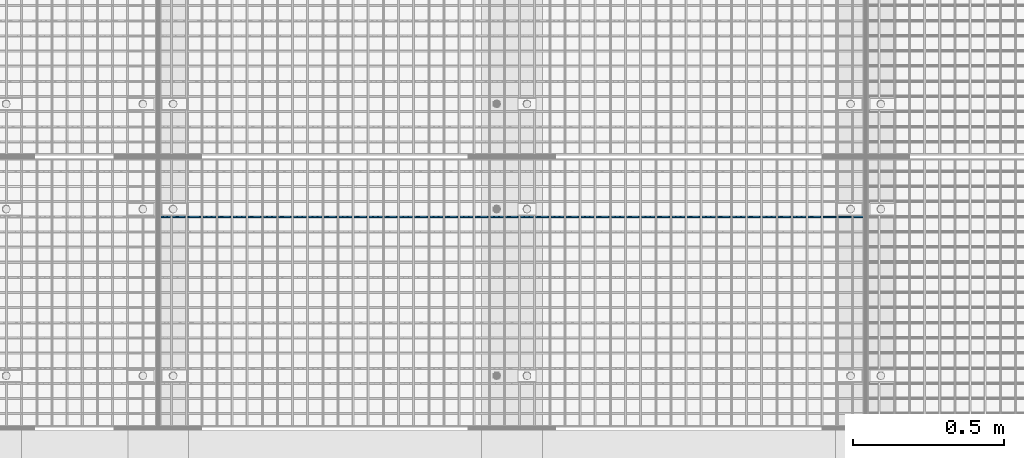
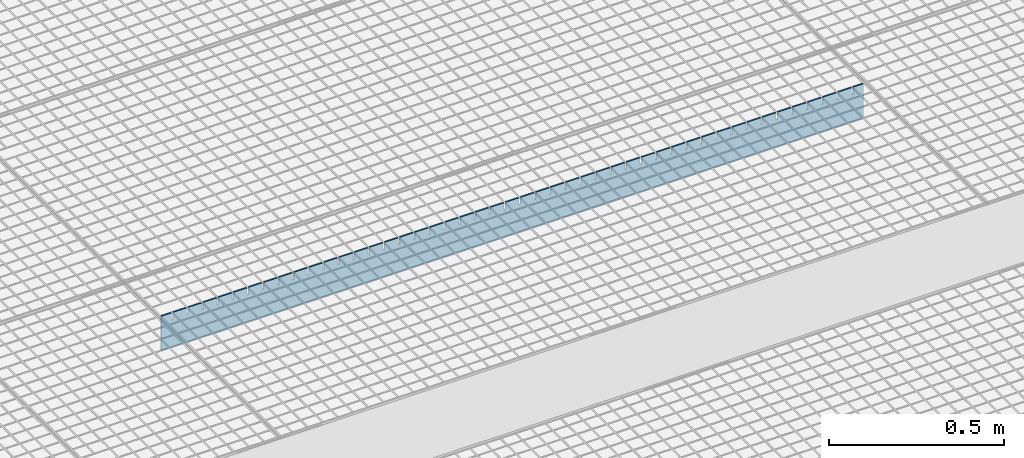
# One storey, part 349 of 1530: 1 beam.
"""IFC2X3 building model written with IfcOpenShell, lengths in millimetres."""

from ifc_helpers import new_model, si_unit, frame, origin_with_axes, place, context, subcontext, project, spatial, faceted_brep, material, type_object, element, save


model = new_model("IFC2X3")

# Units and contexts
model_context = context("Model", 3, precision=1e-05, world=origin_with_axes())
body_context = subcontext(model_context, "Body", "Model", "MODEL_VIEW")
ifc_project = project(units=[si_unit("LENGTHUNIT", "METRE", prefix="MILLI"), si_unit("AREAUNIT", "SQUARE_METRE"), si_unit("VOLUMEUNIT", "CUBIC_METRE"), si_unit("MASSUNIT", "GRAM", prefix="KILO"), si_unit("TIMEUNIT", "SECOND"), si_unit("PLANEANGLEUNIT", "RADIAN"), si_unit("SOLIDANGLEUNIT", "STERADIAN"), si_unit("THERMODYNAMICTEMPERATUREUNIT", "DEGREE_CELSIUS"), si_unit("LUMINOUSINTENSITYUNIT", "LUMEN")], contexts=[model_context])

# Site, building, storey
site_placement = place(None, origin_with_axes())
site = spatial("IfcSite", under=ifc_project, at=site_placement, Name="Brattvåg", CompositionType="ELEMENT")
building_placement = place(site_placement, origin_with_axes())
building = spatial("IfcBuilding", under=site, at=building_placement, Name="Undefined", CompositionType="ELEMENT")
storey_placement = place(building_placement, origin_with_axes())
storey = spatial("IfcBuildingStorey", under=building, at=storey_placement, Name="Undefined", CompositionType="ELEMENT", Elevation=0.0)

# Beam
ifc_material = material(Name="STEEL/S355J2")
beam_type = type_object("IfcBeamType", Name="120*5", PredefinedType="NOTDEFINED")
beam_placement = place(storey_placement, frame((5234.01317977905, 3852.99449157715, -59.9998626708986), z_axis=(0.0, 0.0, 1.0), x_axis=(-1.0, 1.99999855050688e-09, 0.0)))
element("IfcBeam", 1, at=beam_placement, inside=storey, type_object=beam_type, material=ifc_material, Name="GRATING", context=body_context, shape_type="Brep", body=[
    faceted_brep([(83.5790367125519, -2.50000000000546, 60.0000722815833), (83.5790367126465, -2.50000000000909, 35.0001373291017), (83.5790367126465, 2.50022888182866, 35.0001373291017), (83.5790367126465, 2.5, 60.0), (88.5790367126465, -2.50000000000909, 35.0001373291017), (88.5790367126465, 2.50022888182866, 35.0001373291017), (88.5790367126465, -2.50000000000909, 60.0001373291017), (88.5790367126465, 2.5, 60.0), (38.6284370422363, -2.50000000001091, 60.0001373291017), (38.6284370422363, 2.5, 60.0), (38.6284370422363, 2.49999999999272, 35.0001373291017), (38.6284370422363, -2.50000000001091, 35.0001373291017), (33.6284370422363, 2.49999999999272, 35.0001373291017), (33.6284370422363, -2.50000000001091, 35.0001373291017), (33.6284370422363, -2.5, 60.0), (33.6284370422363, 2.5, 60.0), (0.0, 2.5, 60.0), (0.0, -2.5, 60.0), (0.0, -2.5, -60.0), (0.0, 2.5, -60.0), (2319.99865722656, 2.5, -60.0), (2319.99865722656, -2.5, -60.0), (2319.99865722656, -2.5, 60.0), (2319.99865722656, 2.5, 60.0), (2286.37871932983, 2.5, 60.0), (2286.37871932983, -2.50000000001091, 60.0001373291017), (2286.37871932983, 2.49999999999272, 35.0001373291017), (2286.37871932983, -2.50000000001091, 35.0001373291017), (2281.37871932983, 2.49999999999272, 35.0001373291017), (2281.37871932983, -2.50000000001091, 35.0001373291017), (2281.37871932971, -2.50000000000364, 60.0000634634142), (2281.37871932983, 2.5, 60.0), (2236.42859649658, 2.5, 60.0), (2236.42859649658, -2.50000000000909, 60.0001373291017), (2236.42859649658, 2.50022888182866, 35.0001373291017), (2236.42859649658, -2.50000000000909, 35.0001373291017), (2231.42859649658, 2.50022888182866, 35.0001373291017), (2231.42859649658, -2.50000000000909, 35.0001373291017), (2231.42859649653, -2.50000000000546, 60.0000910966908), (2231.42859649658, 2.5, 60.0), (2186.47847366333, 2.5, 60.0), (2186.47847366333, -2.50000000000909, 60.0001373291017), (2186.47847366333, 2.50022888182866, 35.0001373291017), (2186.47847366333, -2.50000000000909, 35.0001373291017), (2181.47847366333, 2.50022888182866, 35.0001373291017), (2181.47847366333, -2.50000000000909, 35.0001373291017), (2181.47847366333, -2.5, 60.0), (2181.47847366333, 2.5, 60.0), (2136.52882766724, 2.5, 60.0), (2136.52882766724, -2.50000000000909, 60.0001373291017), (2136.52882766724, 2.50022888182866, 35.0001373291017), (2136.52882766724, -2.50000000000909, 35.0001373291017), (2131.52882766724, 2.50022888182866, 35.0001373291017), (2131.52882766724, -2.50000000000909, 35.0001373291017), (2131.52882766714, -2.50000000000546, 60.0000722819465), (2131.52882766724, 2.5, 60.0), (2086.57870483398, 2.5, 60.0), (2086.57870483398, -2.50000000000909, 60.0001373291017), (2086.57870483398, 2.50022888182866, 35.0001373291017), (2086.57870483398, -2.50000000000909, 35.0001373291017), (2081.57870483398, 2.50022888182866, 35.0001373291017), (2081.57870483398, -2.50000000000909, 35.0001373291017), (2081.57870483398, -2.5, 60.0), (2081.57870483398, 2.5, 60.0), (2036.62858200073, 2.5, 60.0), (2036.62858200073, -2.50000000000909, 60.0001373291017), (2036.62858200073, 2.50022888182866, 35.0001373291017), (2036.62858200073, -2.50000000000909, 35.0001373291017), (2031.62858200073, 2.50022888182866, 35.0001373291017), (2031.62858200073, -2.50000000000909, 35.0001373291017), (2031.62858200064, -2.50000000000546, 60.0000722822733), (2031.62858200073, 2.5, 60.0), (1986.67845916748, 2.5, 60.0), (1986.67845916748, -2.50000000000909, 60.0001373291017), (1986.67845916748, 2.50022888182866, 35.0001373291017), (1986.67845916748, -2.50000000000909, 35.0001373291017), (1981.67845916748, 2.50022888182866, 35.0001373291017), (1981.67845916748, -2.50000000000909, 35.0001373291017), (1981.67845916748, -2.5, 60.0), (1981.67845916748, 2.5, 60.0), (1936.72881317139, 2.5, 60.0), (1936.72881317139, -2.50000000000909, 60.0001373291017), (1936.72881317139, 2.50022888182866, 35.0001373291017), (1936.72881317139, -2.50000000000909, 35.0001373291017), (1931.72881317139, 2.50022888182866, 35.0001373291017), (1931.72881317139, -2.50000000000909, 35.0001373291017), (1931.72881317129, -2.50000000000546, 60.0000722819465), (1931.72881317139, 2.5, 60.0), (1886.77869033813, 2.5, 60.0), (1886.77869033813, -2.50000000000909, 60.0001373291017), (1886.77869033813, 2.50022888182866, 35.0001373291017), (1886.77869033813, -2.50000000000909, 35.0001373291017), (1881.77869033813, 2.50022888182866, 35.0001373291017), (1881.77869033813, -2.50000000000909, 35.0001373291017), (1881.77869033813, -2.5, 60.0), (1881.77869033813, 2.5, 60.0), (1836.82856750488, 2.5, 60.0), (1836.82856750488, -2.50000000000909, 60.0001373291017), (1836.82856750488, 2.50022888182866, 35.0001373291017), (1836.82856750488, -2.50000000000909, 35.0001373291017), (1831.82856750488, 2.50022888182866, 35.0001373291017), (1831.82856750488, -2.50000000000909, 35.0001373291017), (1831.82856750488, -2.5, 60.0), (1831.82856750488, 2.5, 60.0), (1786.87892150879, 2.5, 60.0), (1786.87892150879, -2.50000000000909, 60.0001373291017), (1786.87892150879, 2.50022888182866, 35.0001373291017), (1786.87892150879, -2.50000000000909, 35.0001373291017), (1781.87892150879, 2.50022888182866, 35.0001373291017), (1781.87892150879, -2.50000000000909, 35.0001373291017), (1781.87892150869, -2.50000000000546, 60.0000722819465), (1781.87892150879, 2.5, 60.0), (1736.92879867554, 2.5, 60.0), (1736.92879867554, -2.50000000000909, 60.0001373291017), (1736.92879867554, 2.50022888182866, 35.0001373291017), (1736.92879867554, -2.50000000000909, 35.0001373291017), (1731.92879867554, 2.50022888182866, 35.0001373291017), (1731.92879867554, -2.50000000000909, 35.0001373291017), (1731.92879867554, -2.5, 60.0), (1731.92879867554, 2.5, 60.0), (1686.97867584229, 2.5, 60.0), (1686.97867584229, -2.50000000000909, 60.0001373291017), (1686.97867584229, 2.50022888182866, 35.0001373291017), (1686.97867584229, -2.50000000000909, 35.0001373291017), (1681.97867584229, 2.50022888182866, 35.0001373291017), (1681.97867584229, -2.50000000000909, 35.0001373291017), (1681.97867584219, -2.50000000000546, 60.0000722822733), (1681.97867584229, 2.5, 60.0), (1637.02855300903, 2.5, 60.0), (1637.02855300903, -2.50000000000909, 60.0001373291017), (1637.02855300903, 2.50022888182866, 35.0001373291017), (1637.02855300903, -2.50000000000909, 35.0001373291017), (1632.02855300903, 2.50022888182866, 35.0001373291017), (1632.02855300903, -2.50000000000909, 35.0001373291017), (1632.02855300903, -2.5, 60.0), (1632.02855300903, 2.5, 60.0), (1587.07890701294, 2.5, 60.0), (1587.07890701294, -2.50000000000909, 60.0001373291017), (1587.07890701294, 2.50022888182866, 35.0001373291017), (1587.07890701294, -2.50000000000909, 35.0001373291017), (1582.07890701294, 2.50022888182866, 35.0001373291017), (1582.07890701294, -2.50000000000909, 35.0001373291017), (1582.07890701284, -2.50000000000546, 60.0000722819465), (1582.07890701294, 2.5, 60.0), (1537.12878417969, 2.5, 60.0), (1537.12878417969, -2.50000000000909, 60.0001373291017), (1537.12878417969, 2.50022888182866, 35.0001373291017), (1537.12878417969, -2.50000000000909, 35.0001373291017), (1532.12878417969, 2.50022888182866, 35.0001373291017), (1532.12878417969, -2.50000000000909, 35.0001373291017), (1532.12878417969, -2.5, 60.0), (1532.12878417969, 2.5, 60.0), (1487.17866134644, 2.5, 60.0), (1487.17866134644, -2.50000000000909, 60.0001373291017), (1487.17866134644, 2.50022888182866, 35.0001373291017), (1487.17866134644, -2.50000000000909, 35.0001373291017), (1482.17866134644, 2.50022888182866, 35.0001373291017), (1482.17866134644, -2.50000000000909, 35.0001373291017), (1482.17866134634, -2.50000000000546, 60.0000722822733), (1482.17866134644, 2.5, 60.0), (1437.22853851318, 2.5, 60.0), (1437.22853851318, -2.50000000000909, 60.0001373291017), (1437.22853851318, 2.50022888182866, 35.0001373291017), (1437.22853851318, -2.50000000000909, 35.0001373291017), (1432.22853851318, 2.50022888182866, 35.0001373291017), (1432.22853851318, -2.50000000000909, 35.0001373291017), (1432.22853851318, -2.5, 60.0), (1432.22853851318, 2.5, 60.0), (1387.27889251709, 2.5, 60.0), (1387.27889251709, -2.50000000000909, 60.0001373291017), (1387.27889251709, 2.50022888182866, 35.0001373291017), (1387.27889251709, -2.50000000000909, 35.0001373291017), (1382.27889251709, 2.50022888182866, 35.0001373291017), (1382.27889251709, -2.50000000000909, 35.0001373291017), (1382.278892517, -2.50000000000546, 60.0000722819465), (1382.27889251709, 2.5, 60.0), (1337.32876968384, 2.5, 60.0), (1337.32876968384, -2.50000000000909, 60.0001373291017), (1337.32876968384, 2.50022888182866, 35.0001373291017), (1337.32876968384, -2.50000000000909, 35.0001373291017), (1332.32876968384, 2.50022888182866, 35.0001373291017), (1332.32876968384, -2.50000000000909, 35.0001373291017), (1332.32876968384, -2.5, 60.0), (1332.32876968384, 2.5, 60.0), (1287.37864685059, 2.5, 60.0), (1287.37864685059, -2.50000000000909, 60.0001373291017), (1287.37864685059, 2.50022888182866, 35.0001373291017), (1287.37864685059, -2.50000000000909, 35.0001373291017), (1282.37864685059, 2.50022888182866, 35.0001373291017), (1282.37864685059, -2.50000000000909, 35.0001373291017), (1282.37864685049, -2.50000000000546, 60.0000722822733), (1282.37864685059, 2.5, 60.0), (1237.42852401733, 2.5, 60.0), (1237.42852401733, -2.50000000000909, 60.0001373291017), (1237.42852401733, 2.50022888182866, 35.0001373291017), (1237.42852401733, -2.50000000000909, 35.0001373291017), (1232.42852401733, 2.50022888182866, 35.0001373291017), (1232.42852401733, -2.50000000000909, 35.0001373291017), (1232.42852401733, -2.5, 60.0), (1232.42852401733, 2.5, 60.0), (1187.47887802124, 2.5, 60.0), (1187.47887802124, -2.50000000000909, 60.0001373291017), (1187.47887802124, 2.50022888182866, 35.0001373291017), (1187.47887802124, -2.50000000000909, 35.0001373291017), (1182.47887802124, 2.50022888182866, 35.0001373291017), (1182.47887802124, -2.50000000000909, 35.0001373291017), (1182.47887802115, -2.50000000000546, 60.0000722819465), (1182.47887802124, 2.5, 60.0), (1137.52875518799, 2.5, 60.0), (1137.52875518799, -2.50000000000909, 60.0001373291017), (1137.52875518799, 2.50022888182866, 35.0001373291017), (1137.52875518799, -2.50000000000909, 35.0001373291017), (1132.52875518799, 2.50022888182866, 35.0001373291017), (1132.52875518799, -2.50000000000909, 35.0001373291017), (1132.52875518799, -2.5, 60.0), (1132.52875518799, 2.5, 60.0), (1087.57863235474, 2.5, 60.0), (1087.57863235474, -2.50000000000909, 60.0001373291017), (1087.57863235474, 2.50022888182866, 35.0001373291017), (1087.57863235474, -2.50000000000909, 35.0001373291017), (1082.57863235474, 2.50022888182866, 35.0001373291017), (1082.57863235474, -2.50000000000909, 35.0001373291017), (1082.57863235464, -2.50000000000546, 60.0000722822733), (1082.57863235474, 2.5, 60.0), (1037.62850952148, 2.5, 60.0), (1037.62850952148, -2.50000000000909, 60.0001373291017), (1037.62850952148, 2.50022888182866, 35.0001373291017), (1037.62850952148, -2.50000000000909, 35.0001373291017), (1032.62850952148, 2.50022888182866, 35.0001373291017), (1032.62850952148, -2.50000000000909, 35.0001373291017), (1032.62850952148, -2.5, 60.0), (1032.62850952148, 2.5, 60.0), (987.678863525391, 2.5, 60.0), (987.678863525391, -2.50000000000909, 60.0001373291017), (987.678863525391, 2.50022888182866, 35.0001373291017), (987.678863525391, -2.50000000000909, 35.0001373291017), (982.678863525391, 2.50022888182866, 35.0001373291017), (982.678863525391, -2.50000000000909, 35.0001373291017), (982.678863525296, -2.50000000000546, 60.0000722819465), (982.678863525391, 2.5, 60.0), (937.728740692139, 2.5, 60.0), (937.728740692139, -2.50000000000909, 60.0001373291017), (937.728740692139, 2.50022888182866, 35.0001373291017), (937.728740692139, -2.50000000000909, 35.0001373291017), (932.728740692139, 2.50022888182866, 35.0001373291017), (932.728740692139, -2.50000000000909, 35.0001373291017), (932.728740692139, -2.5, 60.0), (932.728740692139, 2.5, 60.0), (887.778617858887, 2.5, 60.0), (887.778617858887, -2.50000000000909, 60.0001373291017), (887.778617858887, 2.50022888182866, 35.0001373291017), (887.778617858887, -2.50000000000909, 35.0001373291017), (882.778617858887, 2.50022888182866, 35.0001373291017), (882.778617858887, -2.50000000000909, 35.0001373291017), (882.778617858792, -2.50000000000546, 60.0000722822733), (882.778617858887, 2.5, 60.0), (837.828495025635, 2.5, 60.0), (837.828495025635, -2.50000000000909, 60.0001373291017), (837.828495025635, 2.50022888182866, 35.0001373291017), (837.828495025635, -2.50000000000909, 35.0001373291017), (832.828495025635, 2.50022888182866, 35.0001373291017), (832.828495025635, -2.50000000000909, 35.0001373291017), (832.828495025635, -2.5, 60.0), (832.828495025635, 2.5, 60.0), (787.878849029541, 2.5, 60.0), (787.878849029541, -2.50000000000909, 60.0001373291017), (787.878849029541, 2.50022888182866, 35.0001373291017), (787.878849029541, -2.50000000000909, 35.0001373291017), (782.878849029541, 2.50022888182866, 35.0001373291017), (782.878849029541, -2.50000000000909, 35.0001373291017), (782.878849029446, -2.50000000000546, 60.0000722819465), (782.878849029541, 2.5, 60.0), (737.928726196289, 2.5, 60.0), (737.928726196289, -2.50000000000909, 60.0001373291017), (737.928726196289, 2.50022888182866, 35.0001373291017), (737.928726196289, -2.50000000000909, 35.0001373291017), (732.928726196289, 2.50022888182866, 35.0001373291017), (732.928726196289, -2.50000000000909, 35.0001373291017), (732.928726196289, -2.5, 60.0), (732.928726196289, 2.5, 60.0), (687.978603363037, 2.5, 60.0), (687.978603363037, -2.50000000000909, 60.0001373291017), (687.978603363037, 2.50022888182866, 35.0001373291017), (687.978603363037, -2.50000000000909, 35.0001373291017), (682.978603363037, 2.50022888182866, 35.0001373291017), (682.978603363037, -2.50000000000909, 35.0001373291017), (682.978603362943, -2.50000000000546, 60.0000722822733), (682.978603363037, 2.5, 60.0), (638.028480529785, 2.5, 60.0), (638.028480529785, -2.50000000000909, 60.0001373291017), (638.028480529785, 2.50022888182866, 35.0001373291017), (638.028480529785, -2.50000000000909, 35.0001373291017), (633.028480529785, 2.50022888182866, 35.0001373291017), (633.028480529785, -2.50000000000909, 35.0001373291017), (633.028480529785, -2.5, 60.0), (633.028480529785, 2.5, 60.0), (588.078834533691, 2.5, 60.0), (588.078834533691, -2.50000000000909, 60.0001373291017), (588.078834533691, 2.50022888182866, 35.0001373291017), (588.078834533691, -2.50000000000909, 35.0001373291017), (583.078834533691, 2.50022888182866, 35.0001373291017), (583.078834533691, -2.50000000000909, 35.0001373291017), (583.078834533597, -2.50000000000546, 60.0000722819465), (583.078834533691, 2.5, 60.0), (538.128711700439, 2.5, 60.0), (538.128711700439, -2.50000000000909, 60.0001373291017), (538.128711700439, 2.50022888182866, 35.0001373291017), (538.128711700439, -2.50000000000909, 35.0001373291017), (533.128711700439, 2.50022888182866, 35.0001373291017), (533.128711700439, -2.50000000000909, 35.0001373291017), (533.128711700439, -2.5, 60.0), (533.128711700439, 2.5, 60.0), (488.178588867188, 2.5, 60.0), (488.178588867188, -2.50000000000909, 60.0001373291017), (488.178588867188, 2.50022888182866, 35.0001373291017), (488.178588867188, -2.50000000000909, 35.0001373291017), (483.178588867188, 2.50022888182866, 35.0001373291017), (483.178588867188, -2.50000000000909, 35.0001373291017), (483.178588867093, -2.50000000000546, 60.0000722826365), (483.178588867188, 2.5, 60.0), (438.228942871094, 2.5, 60.0), (438.228942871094, -2.50000000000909, 60.0001373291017), (438.228942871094, 2.50022888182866, 35.0001373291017), (438.228942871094, -2.50000000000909, 35.0001373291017), (433.228942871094, 2.50022888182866, 35.0001373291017), (433.228942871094, -2.50000000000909, 35.0001373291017), (433.228942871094, -2.5, 60.0), (433.228942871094, 2.5, 60.0), (388.278820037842, 2.5, 60.0), (388.278820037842, -2.50000000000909, 60.0001373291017), (388.278820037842, 2.50022888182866, 35.0001373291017), (388.278820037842, -2.50000000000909, 35.0001373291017), (383.278820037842, 2.50022888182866, 35.0001373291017), (383.278820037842, -2.50000000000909, 35.0001373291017), (383.278820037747, -2.50000000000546, 60.0000722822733), (383.278820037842, 2.5, 60.0), (338.32869720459, 2.5, 60.0), (338.32869720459, -2.50000000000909, 60.0001373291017), (338.32869720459, 2.50022888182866, 35.0001373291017), (338.32869720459, -2.50000000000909, 35.0001373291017), (333.32869720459, 2.50022888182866, 35.0001373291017), (333.32869720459, -2.50000000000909, 35.0001373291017), (333.32869720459, -2.5, 60.0), (333.32869720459, 2.5, 60.0), (288.378574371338, 2.5, 60.0), (288.378574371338, -2.50000000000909, 60.0001373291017), (288.378574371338, 2.50022888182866, 35.0001373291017), (288.378574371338, -2.50000000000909, 35.0001373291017), (283.378574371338, 2.50022888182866, 35.0001373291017), (283.378574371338, -2.50000000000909, 35.0001373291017), (283.378574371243, -2.50000000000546, 60.0000722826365), (283.378574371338, 2.5, 60.0), (238.428928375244, 2.5, 60.0), (238.428928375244, -2.50000000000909, 60.0001373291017), (238.428928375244, 2.50022888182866, 35.0001373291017), (238.428928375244, -2.50000000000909, 35.0001373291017), (233.428928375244, 2.50022888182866, 35.0001373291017), (233.428928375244, -2.50000000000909, 35.0001373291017), (233.428928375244, -2.5, 60.0), (233.428928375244, 2.5, 60.0), (188.478328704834, 2.5, 60.0), (188.478328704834, -2.50000000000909, 60.0001373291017), (188.478328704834, 2.50022888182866, 35.0001373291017), (188.478328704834, -2.50000000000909, 35.0001373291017), (183.478328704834, 2.50022888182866, 35.0001373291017), (183.478328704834, -2.50000000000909, 35.0001373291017), (183.478328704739, -2.50000000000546, 60.0000722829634), (183.478328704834, 2.5, 60.0), (138.52868270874, 2.5, 60.0), (138.52868270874, -2.50000000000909, 60.0001373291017), (138.52868270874, 2.50022888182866, 35.0001373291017), (138.52868270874, -2.50000000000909, 35.0001373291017), (133.52868270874, 2.50022888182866, 35.0001373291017), (133.52868270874, -2.50000000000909, 35.0001373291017), (133.52868270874, -2.5, 60.0), (133.52868270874, 2.5, 60.0)], [[[0, 1, 2, 3]], [[4, 5, 2, 1]], [[6, 7, 5, 4]], [[8, 9, 10, 11]], [[11, 10, 12, 13]], [[14, 13, 12, 15]], [[16, 17, 14, 15]], [[18, 17, 16, 19]], [[18, 19, 20, 21]], [[22, 21, 20, 23]], [[22, 23, 24, 25]], [[25, 24, 26, 27]], [[27, 26, 28, 29]], [[30, 29, 28, 31]], [[32, 33, 30, 31]], [[33, 32, 34, 35]], [[35, 34, 36, 37]], [[38, 37, 36, 39]], [[40, 41, 38, 39]], [[41, 40, 42, 43]], [[43, 42, 44, 45]], [[46, 45, 44, 47]], [[46, 47, 48, 49]], [[49, 48, 50, 51]], [[51, 50, 52, 53]], [[54, 53, 52, 55]], [[56, 57, 54, 55]], [[57, 56, 58, 59]], [[59, 58, 60, 61]], [[62, 61, 60, 63]], [[62, 63, 64, 65]], [[65, 64, 66, 67]], [[67, 66, 68, 69]], [[70, 69, 68, 71]], [[72, 73, 70, 71]], [[73, 72, 74, 75]], [[75, 74, 76, 77]], [[78, 77, 76, 79]], [[78, 79, 80, 81]], [[81, 80, 82, 83]], [[83, 82, 84, 85]], [[86, 85, 84, 87]], [[88, 89, 86, 87]], [[89, 88, 90, 91]], [[91, 90, 92, 93]], [[94, 93, 92, 95]], [[94, 95, 96, 97]], [[97, 96, 98, 99]], [[99, 98, 100, 101]], [[102, 101, 100, 103]], [[102, 103, 104, 105]], [[105, 104, 106, 107]], [[107, 106, 108, 109]], [[110, 109, 108, 111]], [[112, 113, 110, 111]], [[113, 112, 114, 115]], [[115, 114, 116, 117]], [[118, 117, 116, 119]], [[118, 119, 120, 121]], [[121, 120, 122, 123]], [[123, 122, 124, 125]], [[126, 125, 124, 127]], [[128, 129, 126, 127]], [[129, 128, 130, 131]], [[131, 130, 132, 133]], [[134, 133, 132, 135]], [[134, 135, 136, 137]], [[137, 136, 138, 139]], [[139, 138, 140, 141]], [[142, 141, 140, 143]], [[144, 145, 142, 143]], [[145, 144, 146, 147]], [[147, 146, 148, 149]], [[150, 149, 148, 151]], [[150, 151, 152, 153]], [[153, 152, 154, 155]], [[155, 154, 156, 157]], [[158, 157, 156, 159]], [[160, 161, 158, 159]], [[161, 160, 162, 163]], [[163, 162, 164, 165]], [[166, 165, 164, 167]], [[166, 167, 168, 169]], [[169, 168, 170, 171]], [[171, 170, 172, 173]], [[174, 173, 172, 175]], [[176, 177, 174, 175]], [[177, 176, 178, 179]], [[179, 178, 180, 181]], [[182, 181, 180, 183]], [[182, 183, 184, 185]], [[185, 184, 186, 187]], [[187, 186, 188, 189]], [[190, 189, 188, 191]], [[192, 193, 190, 191]], [[193, 192, 194, 195]], [[195, 194, 196, 197]], [[198, 197, 196, 199]], [[198, 199, 200, 201]], [[201, 200, 202, 203]], [[203, 202, 204, 205]], [[206, 205, 204, 207]], [[208, 209, 206, 207]], [[209, 208, 210, 211]], [[211, 210, 212, 213]], [[214, 213, 212, 215]], [[214, 215, 216, 217]], [[217, 216, 218, 219]], [[219, 218, 220, 221]], [[222, 221, 220, 223]], [[224, 225, 222, 223]], [[225, 224, 226, 227]], [[227, 226, 228, 229]], [[230, 229, 228, 231]], [[230, 231, 232, 233]], [[233, 232, 234, 235]], [[235, 234, 236, 237]], [[238, 237, 236, 239]], [[240, 241, 238, 239]], [[241, 240, 242, 243]], [[243, 242, 244, 245]], [[246, 245, 244, 247]], [[246, 247, 248, 249]], [[249, 248, 250, 251]], [[251, 250, 252, 253]], [[254, 253, 252, 255]], [[256, 257, 254, 255]], [[257, 256, 258, 259]], [[259, 258, 260, 261]], [[262, 261, 260, 263]], [[262, 263, 264, 265]], [[265, 264, 266, 267]], [[267, 266, 268, 269]], [[270, 269, 268, 271]], [[272, 273, 270, 271]], [[273, 272, 274, 275]], [[275, 274, 276, 277]], [[278, 277, 276, 279]], [[278, 279, 280, 281]], [[281, 280, 282, 283]], [[283, 282, 284, 285]], [[286, 285, 284, 287]], [[288, 289, 286, 287]], [[289, 288, 290, 291]], [[291, 290, 292, 293]], [[294, 293, 292, 295]], [[294, 295, 296, 297]], [[297, 296, 298, 299]], [[299, 298, 300, 301]], [[302, 301, 300, 303]], [[304, 305, 302, 303]], [[305, 304, 306, 307]], [[307, 306, 308, 309]], [[310, 309, 308, 311]], [[310, 311, 312, 313]], [[313, 312, 314, 315]], [[315, 314, 316, 317]], [[318, 317, 316, 319]], [[320, 321, 318, 319]], [[321, 320, 322, 323]], [[323, 322, 324, 325]], [[326, 325, 324, 327]], [[326, 327, 328, 329]], [[329, 328, 330, 331]], [[331, 330, 332, 333]], [[334, 333, 332, 335]], [[336, 337, 334, 335]], [[337, 336, 338, 339]], [[339, 338, 340, 341]], [[342, 341, 340, 343]], [[342, 343, 344, 345]], [[345, 344, 346, 347]], [[347, 346, 348, 349]], [[350, 349, 348, 351]], [[352, 353, 350, 351]], [[353, 352, 354, 355]], [[355, 354, 356, 357]], [[358, 357, 356, 359]], [[358, 359, 360, 361]], [[361, 360, 362, 363]], [[363, 362, 364, 365]], [[366, 365, 364, 367]], [[368, 369, 366, 367]], [[369, 368, 370, 371]], [[371, 370, 372, 373]], [[374, 373, 372, 375]], [[1, 0, 8, 11, 13, 14, 17, 18, 21, 22, 25, 27, 29, 30, 33, 35, 37, 38, 41, 43, 45, 46, 49, 51, 53, 54, 57, 59, 61, 62, 65, 67, 69, 70, 73, 75, 77, 78, 81, 83, 85, 86, 89, 91, 93, 94, 97, 99, 101, 102, 105, 107, 109, 110, 113, 115, 117, 118, 121, 123, 125, 126, 129, 131, 133, 134, 137, 139, 141, 142, 145, 147, 149, 150, 153, 155, 157, 158, 161, 163, 165, 166, 169, 171, 173, 174, 177, 179, 181, 182, 185, 187, 189, 190, 193, 195, 197, 198, 201, 203, 205, 206, 209, 211, 213, 214, 217, 219, 221, 222, 225, 227, 229, 230, 233, 235, 237, 238, 241, 243, 245, 246, 249, 251, 253, 254, 257, 259, 261, 262, 265, 267, 269, 270, 273, 275, 277, 278, 281, 283, 285, 286, 289, 291, 293, 294, 297, 299, 301, 302, 305, 307, 309, 310, 313, 315, 317, 318, 321, 323, 325, 326, 329, 331, 333, 334, 337, 339, 341, 342, 345, 347, 349, 350, 353, 355, 357, 358, 361, 363, 365, 366, 369, 371, 373, 374, 6, 4]], [[9, 8, 0, 3]], [[375, 372, 370, 368, 367, 364, 362, 360, 359, 356, 354, 352, 351, 348, 346, 344, 343, 340, 338, 336, 335, 332, 330, 328, 327, 324, 322, 320, 319, 316, 314, 312, 311, 308, 306, 304, 303, 300, 298, 296, 295, 292, 290, 288, 287, 284, 282, 280, 279, 276, 274, 272, 271, 268, 266, 264, 263, 260, 258, 256, 255, 252, 250, 248, 247, 244, 242, 240, 239, 236, 234, 232, 231, 228, 226, 224, 223, 220, 218, 216, 215, 212, 210, 208, 207, 204, 202, 200, 199, 196, 194, 192, 191, 188, 186, 184, 183, 180, 178, 176, 175, 172, 170, 168, 167, 164, 162, 160, 159, 156, 154, 152, 151, 148, 146, 144, 143, 140, 138, 136, 135, 132, 130, 128, 127, 124, 122, 120, 119, 116, 114, 112, 111, 108, 106, 104, 103, 100, 98, 96, 95, 92, 90, 88, 87, 84, 82, 80, 79, 76, 74, 72, 71, 68, 66, 64, 63, 60, 58, 56, 55, 52, 50, 48, 47, 44, 42, 40, 39, 36, 34, 32, 31, 28, 26, 24, 23, 20, 19, 16, 15, 12, 10, 9, 3, 2, 5, 7]], [[374, 375, 7, 6]]]),
])

save(model, "model.ifc")
